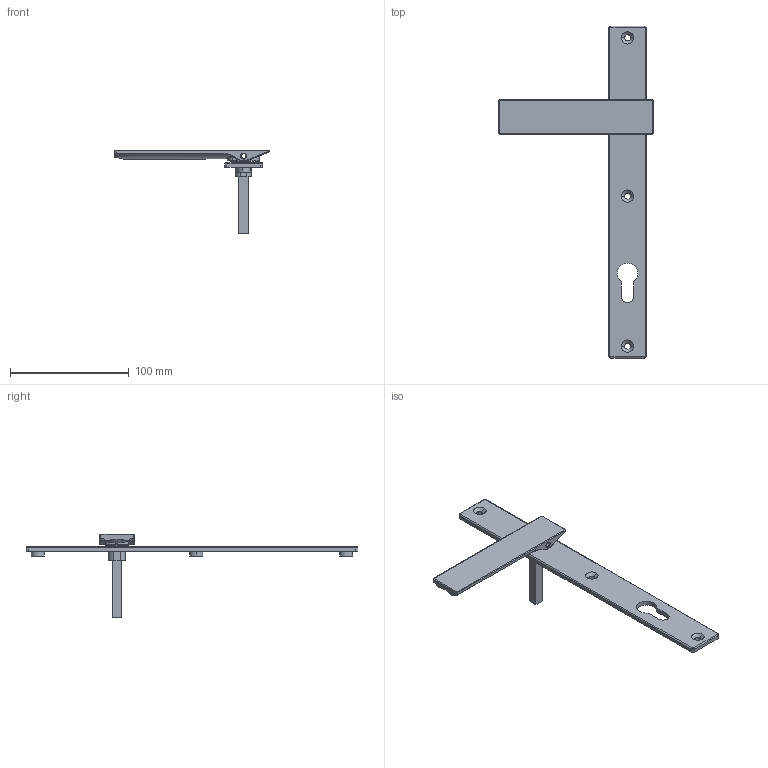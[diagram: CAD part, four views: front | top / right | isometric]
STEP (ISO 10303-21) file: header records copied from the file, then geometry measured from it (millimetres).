
FILE_DESCRIPTION (( 'STEP AP203' ), '1' );
FILE_NAME ('TPL-SS-004-A 23Apr2026.STEP', '2026-04-22T22:59:58', ( '' ), ( '' ), 'SwSTEP 2.0', 'SolidWorks 2023', '' );
FILE_SCHEMA (( 'CONFIG_CONTROL_DESIGN' ));
Length unit declared in the file: millimetre
Products named in the file (6): TPL-SS-004-A 23Apr2026; Copy of Escutcheon plate keyed internal 280mm - simplified^TPGen2 handle keyed internal SS - simplified; Copy of LKC-584 Pivot body zinc - simplified^TPGen2 handle keyed internal SS - simplified; Copy of LKC-506 Swing handle SS - simplified^TPGen2 handle keyed internal SS - simplified; Copy of LKC-585 Rotator body zinc - simplified^TPGen2 handle keyed internal SS - simplified; Copy of LKC-586 Spindle square 8mm with M4 hole - simplified^TPGen2 handle keyed internal SS - simplified_56mm
Assembly tree (5 placements, depth 2):
  TPL-SS-004-A 23Apr2026
    Copy of Escutcheon plate keyed internal 280mm - simplified^TPGen2 handle keyed internal SS - simplified
    Copy of LKC-586 Spindle square 8mm with M4 hole - simplified^TPGen2 handle keyed internal SS - simplified_56mm
    Copy of LKC-584 Pivot body zinc - simplified^TPGen2 handle keyed internal SS - simplified
    Copy of LKC-585 Rotator body zinc - simplified^TPGen2 handle keyed internal SS - simplified
    Copy of LKC-506 Swing handle SS - simplified^TPGen2 handle keyed internal SS - simplified
Bounding box: 130 x 280 x 70.55 mm (x, y, z)
Volume: 60728.9 mm3; surface area: 34777.9 mm2
Topology: 5 solids, 5 shells, 298 faces, 712 edges, 430 vertices
Faces by surface type: cylinder 113, plane 81, bspline 44, torus 36, cone 22, sphere 2
Entity records: 10250 total; most frequent: CARTESIAN_POINT 2934, ORIENTED_EDGE 1420, DIRECTION 1411, EDGE_CURVE 710, AXIS2_PLACEMENT_3D 559, VERTEX_POINT 430, EDGE_LOOP 332, FACE_OUTER_BOUND 298
